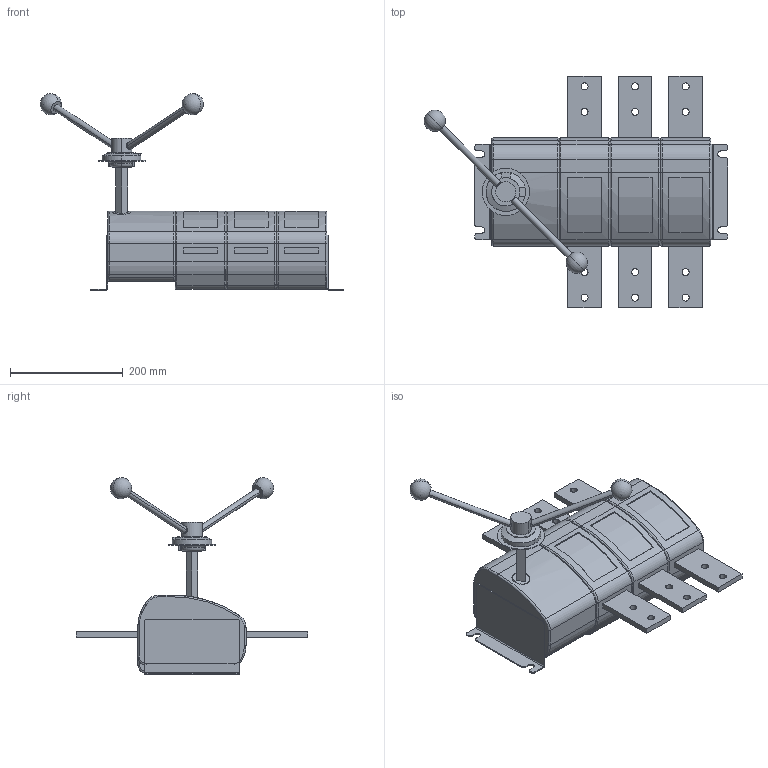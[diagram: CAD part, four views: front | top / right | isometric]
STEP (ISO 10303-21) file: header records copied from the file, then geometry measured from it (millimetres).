
FILE_DESCRIPTION (( 'STEP AP214' ), '1' );
FILE_NAME ('Âûêëþ÷àòåëü íàãðóçêè ÂÍÊ-43-31130-1600À-Ë-IP54-ÓÕË3-ÊÝÀÇ.STEP', '2023-04-19T13:49:05', ( '' ), ( '' ), 'SwSTEP 2.0', 'SolidWorks 2018', '' );
FILE_SCHEMA (( 'AUTOMOTIVE_DESIGN' ));
Length unit declared in the file: millimetre
Products named in the file (1): Âûêëþ÷àòåëü íàãðóçêè ÂÍÊ-43-31130-1600À-Ë-IP54-ÓÕË3-ÊÝÀÇ
Bounding box: 539.34 x 411.4 x 349.8 mm (x, y, z)
Volume: 9648363.5 mm3; surface area: 582720.3 mm2
Topology: 9 solids, 9 shells, 357 faces, 854 edges, 530 vertices
Faces by surface type: cylinder 154, plane 137, torus 60, sphere 4, cone 2
Entity records: 14716 total; most frequent: CARTESIAN_POINT 2130, DIRECTION 1929, ORIENTED_EDGE 1688, EDGE_CURVE 844, AXIS2_PLACEMENT_3D 747, VERTEX_POINT 524, VECTOR 435, LINE 435
